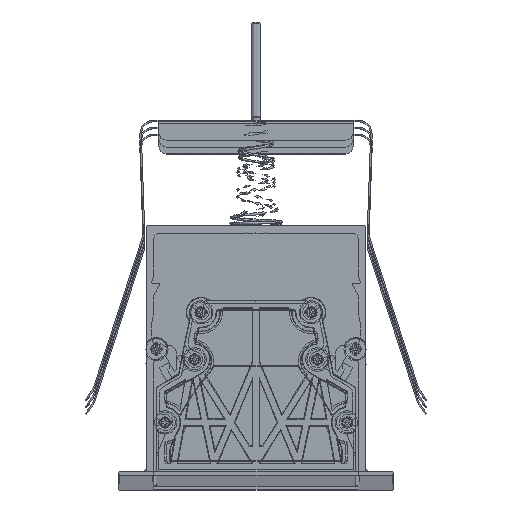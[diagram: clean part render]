
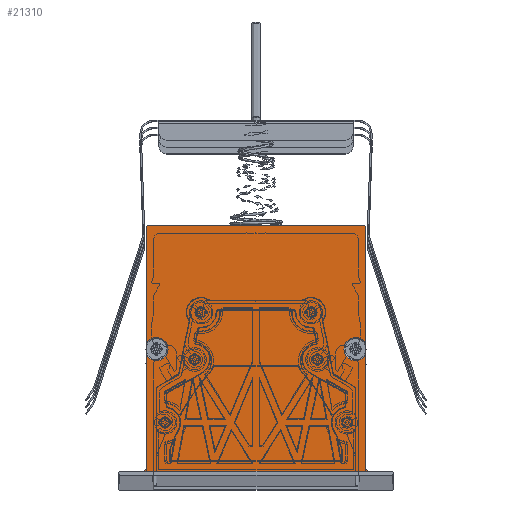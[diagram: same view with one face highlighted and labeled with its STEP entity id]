
A CAD part, top view. The second image highlights one B-rep face of the part: STEP entity #21310.
In plain terms, the highlighted planar face has unit normal (0, 0, 1).
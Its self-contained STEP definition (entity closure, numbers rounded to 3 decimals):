
#2727=FACE_OUTER_BOUND('',#3984,.T.);
#3984=EDGE_LOOP('',(#19388,#19389,#19390,#19391,#19392,#19393,#19394,#19395,
#19396,#19397,#19398,#19399,#19400));
#5537=LINE('',#46577,#7097);
#5538=LINE('',#46581,#7098);
#5539=LINE('',#46585,#7099);
#5540=LINE('',#46589,#7100);
#5541=LINE('',#46595,#7101);
#5542=LINE('',#46599,#7102);
#7097=VECTOR('',#29839,46.59);
#7098=VECTOR('',#29842,45.089);
#7099=VECTOR('',#29845,91.);
#7100=VECTOR('',#29848,45.089);
#7101=VECTOR('',#29853,46.59);
#7102=VECTOR('',#29856,87.2);
#8172=CIRCLE('',#23845,4.7);
#8173=CIRCLE('',#23846,1.5);
#8174=CIRCLE('',#23847,1.5);
#8175=CIRCLE('',#23848,4.7);
#8176=CIRCLE('',#23849,4.7);
#8177=CIRCLE('',#23850,0.4);
#8178=CIRCLE('',#23851,0.4);
#10141=VERTEX_POINT('',#46575);
#10142=VERTEX_POINT('',#46576);
#10143=VERTEX_POINT('',#46578);
#10144=VERTEX_POINT('',#46580);
#10145=VERTEX_POINT('',#46582);
#10146=VERTEX_POINT('',#46584);
#10147=VERTEX_POINT('',#46586);
#10148=VERTEX_POINT('',#46588);
#10149=VERTEX_POINT('',#46590);
#10150=VERTEX_POINT('',#46592);
#10151=VERTEX_POINT('',#46594);
#10152=VERTEX_POINT('',#46596);
#10153=VERTEX_POINT('',#46598);
#13238=EDGE_CURVE('',#10141,#10142,#5537,.T.);
#13239=EDGE_CURVE('',#10143,#10141,#8172,.T.);
#13240=EDGE_CURVE('',#10144,#10143,#5538,.T.);
#13241=EDGE_CURVE('',#10145,#10144,#8173,.F.);
#13242=EDGE_CURVE('',#10146,#10145,#5539,.T.);
#13243=EDGE_CURVE('',#10147,#10146,#8174,.F.);
#13244=EDGE_CURVE('',#10148,#10147,#5540,.T.);
#13245=EDGE_CURVE('',#10149,#10148,#8175,.T.);
#13246=EDGE_CURVE('',#10150,#10149,#8176,.T.);
#13247=EDGE_CURVE('',#10151,#10150,#5541,.T.);
#13248=EDGE_CURVE('',#10152,#10151,#8177,.T.);
#13249=EDGE_CURVE('',#10152,#10153,#5542,.T.);
#13250=EDGE_CURVE('',#10142,#10153,#8178,.T.);
#19388=ORIENTED_EDGE('',*,*,#13238,.F.);
#19389=ORIENTED_EDGE('',*,*,#13239,.F.);
#19390=ORIENTED_EDGE('',*,*,#13240,.F.);
#19391=ORIENTED_EDGE('',*,*,#13241,.F.);
#19392=ORIENTED_EDGE('',*,*,#13242,.F.);
#19393=ORIENTED_EDGE('',*,*,#13243,.F.);
#19394=ORIENTED_EDGE('',*,*,#13244,.F.);
#19395=ORIENTED_EDGE('',*,*,#13245,.F.);
#19396=ORIENTED_EDGE('',*,*,#13246,.F.);
#19397=ORIENTED_EDGE('',*,*,#13247,.F.);
#19398=ORIENTED_EDGE('',*,*,#13248,.F.);
#19399=ORIENTED_EDGE('',*,*,#13249,.T.);
#19400=ORIENTED_EDGE('',*,*,#13250,.F.);
#20150=PLANE('',#23844);
#21310=ADVANCED_FACE('',(#2727),#20150,.F.);
#23844=AXIS2_PLACEMENT_3D('',#46574,#29837,#29838);
#23845=AXIS2_PLACEMENT_3D('',#46579,#29840,#29841);
#23846=AXIS2_PLACEMENT_3D('',#46583,#29843,#29844);
#23847=AXIS2_PLACEMENT_3D('',#46587,#29846,#29847);
#23848=AXIS2_PLACEMENT_3D('',#46591,#29849,#29850);
#23849=AXIS2_PLACEMENT_3D('',#46593,#29851,#29852);
#23850=AXIS2_PLACEMENT_3D('',#46597,#29854,#29855);
#23851=AXIS2_PLACEMENT_3D('',#46600,#29857,#29858);
#29837=DIRECTION('center_axis',(0.,0.,-1.));
#29838=DIRECTION('ref_axis',(-1.,0.,0.));
#29839=DIRECTION('',(0.,1.,0.));
#29840=DIRECTION('center_axis',(0.,0.,1.));
#29841=DIRECTION('ref_axis',(1.,0.,0.));
#29842=DIRECTION('',(0.,1.,0.));
#29843=DIRECTION('center_axis',(0.,0.,-1.));
#29844=DIRECTION('ref_axis',(0.,1.,0.));
#29845=DIRECTION('',(-1.,0.,0.));
#29846=DIRECTION('center_axis',(0.,0.,-1.));
#29847=DIRECTION('ref_axis',(0.,1.,0.));
#29848=DIRECTION('',(0.,-1.,0.));
#29849=DIRECTION('center_axis',(0.,0.,1.));
#29850=DIRECTION('ref_axis',(1.,0.,0.));
#29851=DIRECTION('center_axis',(0.,0.,1.));
#29852=DIRECTION('ref_axis',(1.,0.,0.));
#29853=DIRECTION('',(0.,-1.,0.));
#29854=DIRECTION('center_axis',(0.,0.,-1.));
#29855=DIRECTION('ref_axis',(0.,1.,0.));
#29856=DIRECTION('',(-1.,0.,0.));
#29857=DIRECTION('center_axis',(0.,0.,-1.));
#29858=DIRECTION('ref_axis',(0.,1.,0.));
#46574=CARTESIAN_POINT('Origin',(60.,100.,3.));
#46575=CARTESIAN_POINT('',(-44.,53.01,3.));
#46576=CARTESIAN_POINT('',(-44.,99.6,3.));
#46577=CARTESIAN_POINT('',(-44.,53.01,3.));
#46578=CARTESIAN_POINT('',(-44.,48.189,3.));
#46579=CARTESIAN_POINT('Origin',(-39.965,50.6,3.));
#46580=CARTESIAN_POINT('',(-44.,3.1,3.));
#46581=CARTESIAN_POINT('',(-44.,3.1,3.));
#46582=CARTESIAN_POINT('',(-45.5,1.6,3.));
#46583=CARTESIAN_POINT('Origin',(-45.5,3.1,3.));
#46584=CARTESIAN_POINT('',(45.5,1.6,3.));
#46585=CARTESIAN_POINT('',(45.5,1.6,3.));
#46586=CARTESIAN_POINT('',(44.,3.1,3.));
#46587=CARTESIAN_POINT('Origin',(45.5,3.1,3.));
#46588=CARTESIAN_POINT('',(44.,48.189,3.));
#46589=CARTESIAN_POINT('',(44.,48.189,3.));
#46590=CARTESIAN_POINT('',(35.265,50.6,3.));
#46591=CARTESIAN_POINT('Origin',(39.965,50.6,3.));
#46592=CARTESIAN_POINT('',(44.,53.01,3.));
#46593=CARTESIAN_POINT('Origin',(39.965,50.6,3.));
#46594=CARTESIAN_POINT('',(44.,99.6,3.));
#46595=CARTESIAN_POINT('',(44.,99.6,3.));
#46596=CARTESIAN_POINT('',(43.6,100.,3.));
#46597=CARTESIAN_POINT('Origin',(43.6,99.6,3.));
#46598=CARTESIAN_POINT('',(-43.6,100.,3.));
#46599=CARTESIAN_POINT('',(43.6,100.,3.));
#46600=CARTESIAN_POINT('Origin',(-43.6,99.6,3.));
